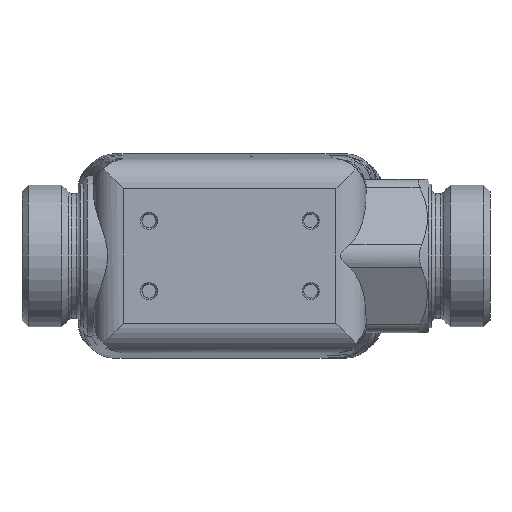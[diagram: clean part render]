
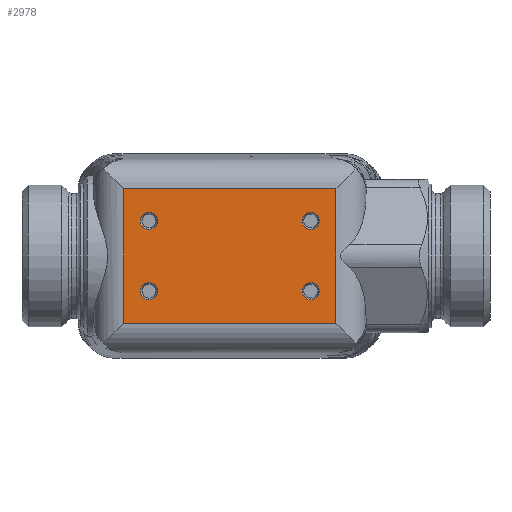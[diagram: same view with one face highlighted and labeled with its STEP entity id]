
A CAD part, front view. The second image highlights one B-rep face of the part: STEP entity #2978.
In plain terms, the highlighted planar face has unit normal (0, -1, 0).
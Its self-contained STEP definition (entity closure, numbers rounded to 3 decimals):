
#172=LINE('',#4459,#269);
#173=LINE('',#4478,#270);
#195=LINE('',#4903,#292);
#196=LINE('',#4904,#293);
#269=VECTOR('',#3390,1000.);
#270=VECTOR('',#3399,1000.);
#292=VECTOR('',#3493,1000.);
#293=VECTOR('',#3494,1000.);
#474=ORIENTED_EDGE('',*,*,#990,.F.);
#475=ORIENTED_EDGE('',*,*,#991,.F.);
#476=ORIENTED_EDGE('',*,*,#992,.F.);
#477=ORIENTED_EDGE('',*,*,#993,.F.);
#478=ORIENTED_EDGE('',*,*,#994,.F.);
#479=ORIENTED_EDGE('',*,*,#930,.F.);
#480=ORIENTED_EDGE('',*,*,#995,.T.);
#481=ORIENTED_EDGE('',*,*,#935,.T.);
#930=EDGE_CURVE('',#1198,#1199,#172,.T.);
#935=EDGE_CURVE('',#1201,#1200,#173,.T.);
#990=EDGE_CURVE('',#1243,#1243,#1391,.T.);
#991=EDGE_CURVE('',#1244,#1244,#1392,.T.);
#992=EDGE_CURVE('',#1245,#1245,#1393,.T.);
#993=EDGE_CURVE('',#1246,#1246,#1394,.T.);
#994=EDGE_CURVE('',#1199,#1200,#195,.T.);
#995=EDGE_CURVE('',#1198,#1201,#196,.T.);
#1198=VERTEX_POINT('',#4458);
#1199=VERTEX_POINT('',#4460);
#1200=VERTEX_POINT('',#4477);
#1201=VERTEX_POINT('',#4479);
#1243=VERTEX_POINT('',#4896);
#1244=VERTEX_POINT('',#4898);
#1245=VERTEX_POINT('',#4900);
#1246=VERTEX_POINT('',#4902);
#1391=CIRCLE('',#3151,2.025);
#1392=CIRCLE('',#3152,2.025);
#1393=CIRCLE('',#3153,2.025);
#1394=CIRCLE('',#3154,2.025);
#1502=EDGE_LOOP('',(#474));
#1503=EDGE_LOOP('',(#475));
#1504=EDGE_LOOP('',(#476));
#1505=EDGE_LOOP('',(#477));
#1506=EDGE_LOOP('',(#478,#479,#480,#481));
#1718=FACE_BOUND('',#1502,.T.);
#1719=FACE_BOUND('',#1503,.T.);
#1720=FACE_BOUND('',#1504,.T.);
#1721=FACE_BOUND('',#1505,.T.);
#1722=FACE_BOUND('',#1506,.T.);
#1922=PLANE('',#3150);
#2978=ADVANCED_FACE('',(#1718,#1719,#1720,#1721,#1722),#1922,.F.);
#3150=AXIS2_PLACEMENT_3D('',#4894,#3483,#3484);
#3151=AXIS2_PLACEMENT_3D('',#4895,#3485,#3486);
#3152=AXIS2_PLACEMENT_3D('',#4897,#3487,#3488);
#3153=AXIS2_PLACEMENT_3D('',#4899,#3489,#3490);
#3154=AXIS2_PLACEMENT_3D('',#4901,#3491,#3492);
#3390=DIRECTION('',(0.,0.,-1.));
#3399=DIRECTION('',(0.,0.,-1.));
#3483=DIRECTION('',(0.,1.,0.));
#3484=DIRECTION('',(0.,0.,1.));
#3485=DIRECTION('',(0.,-1.,0.));
#3486=DIRECTION('',(0.,0.,-1.));
#3487=DIRECTION('',(0.,-1.,0.));
#3488=DIRECTION('',(0.,0.,-1.));
#3489=DIRECTION('',(0.,-1.,0.));
#3490=DIRECTION('',(0.,0.,-1.));
#3491=DIRECTION('',(0.,-1.,0.));
#3492=DIRECTION('',(0.,0.,-1.));
#3493=DIRECTION('',(-1.,0.,0.));
#3494=DIRECTION('',(-1.,0.,0.));
#4458=CARTESIAN_POINT('',(24.95,-20.,15.791));
#4459=CARTESIAN_POINT('',(24.95,-20.,25.));
#4460=CARTESIAN_POINT('',(24.95,-20.,-15.791));
#4477=CARTESIAN_POINT('',(-24.95,-20.,-15.791));
#4478=CARTESIAN_POINT('',(-24.95,-20.,25.));
#4479=CARTESIAN_POINT('',(-24.95,-20.,15.791));
#4894=CARTESIAN_POINT('',(-24.535,-20.,-15.571));
#4895=CARTESIAN_POINT('',(19.,-20.,-8.25));
#4896=CARTESIAN_POINT('',(19.,-20.,-10.275));
#4897=CARTESIAN_POINT('',(-19.,-20.,-8.25));
#4898=CARTESIAN_POINT('',(-19.,-20.,-10.275));
#4899=CARTESIAN_POINT('',(19.,-20.,8.25));
#4900=CARTESIAN_POINT('',(19.,-20.,6.225));
#4901=CARTESIAN_POINT('',(-19.,-20.,8.25));
#4902=CARTESIAN_POINT('',(-19.,-20.,6.225));
#4903=CARTESIAN_POINT('',(35.,-20.,-15.791));
#4904=CARTESIAN_POINT('',(35.,-20.,15.791));
